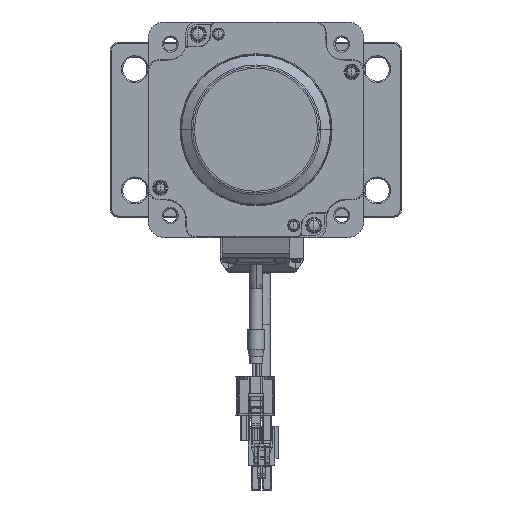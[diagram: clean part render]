
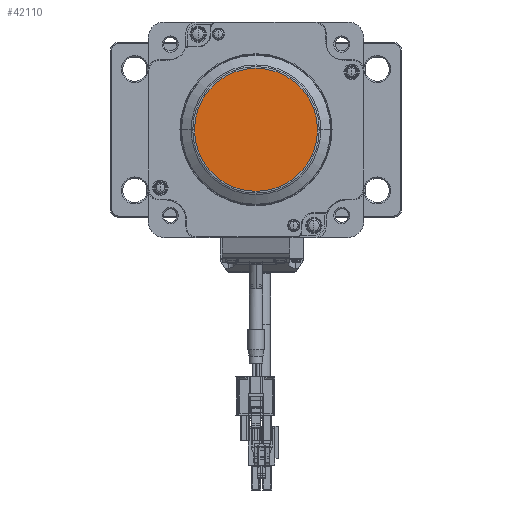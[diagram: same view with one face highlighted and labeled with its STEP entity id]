
A CAD part, front view. The second image highlights one B-rep face of the part: STEP entity #42110.
In plain terms, the highlighted planar face has unit normal (0, -1, 0) as drawn and (-1, 0, 0) by its records, which use the part's own axes.
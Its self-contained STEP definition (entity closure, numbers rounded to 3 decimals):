
#35091=CARTESIAN_POINT('',(-91.9,0.,0.));
#35092=DIRECTION('',(-1.,0.,0.));
#35093=DIRECTION('',(0.,0.,-1.));
#35094=AXIS2_PLACEMENT_3D('',#35091,#35092,#35093);
#35096=CARTESIAN_POINT('',(-91.9,0.,0.));
#35097=DIRECTION('',(-1.,0.,0.));
#35098=DIRECTION('',(0.,0.,1.));
#35099=AXIS2_PLACEMENT_3D('',#35096,#35097,#35098);
#36923=CARTESIAN_POINT('',(-91.9,0.,-22.84));
#36925=VERTEX_POINT('',#36923);
#36929=CARTESIAN_POINT('',(-91.9,0.,22.84));
#36930=VERTEX_POINT('',#36929);
#42100=CARTESIAN_POINT('',(-91.9,-22.,36.));
#42101=DIRECTION('',(1.,0.,0.));
#42102=DIRECTION('',(0.,0.,-1.));
#42103=AXIS2_PLACEMENT_3D('',#42100,#42101,#42102);
#42104=PLANE('',#42103);
#42105=ORIENTED_EDGE('',*,*,#42090,.F.);
#42107=ORIENTED_EDGE('',*,*,#42106,.F.);
#42108=EDGE_LOOP('',(#42105,#42107));
#42109=FACE_OUTER_BOUND('',#42108,.F.);
#42110=ADVANCED_FACE('',(#42109),#42104,.F.);
#35095=CIRCLE('',#35094,22.84);
#35100=CIRCLE('',#35099,22.84);
#42090=EDGE_CURVE('',#36925,#36930,#35095,.T.);
#42106=EDGE_CURVE('',#36930,#36925,#35100,.T.);
